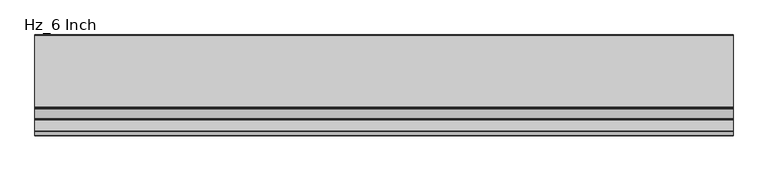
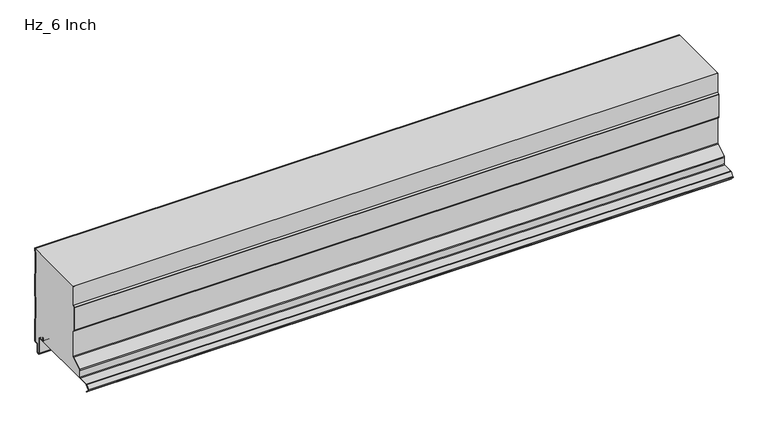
"""IFC4 building model written with IfcOpenShell, lengths in millimetres: plate geometry, KIP_R19_CP_KingSeam_Hz_Roof Panel : Hz_6 Inch."""

from ifc_helpers import new_model, si_unit, point, frame, frame_2d, origin, place, context, project, spatial, polyline, circle_curve, trimmed, segment, composite_curve, outline, extrude, source, transform, mapped, element, save


def hz_6_inch_8cb1a221(model_context):
    return source(origin(), model_context, "Body", "SweptSolid", [
        extrude(outline(composite_curve([segment(polyline([(-32.0, 1.9842002), (-32.0, 9.4842002), (-31.2, 9.4842002), (-31.2, 1.9842002)]), True, "CONTINUOUS"), segment(trimmed(circle_curve(frame_2d((-29.7, 1.9842002)), 1.5), [point((-31.2, 1.9842002))], [point((-29.7, 0.4842002))], True, "CARTESIAN"), True, "CONTINUOUS"), segment(polyline([(-29.7, 0.4842002), (-18.5, 0.4842002)]), True, "CONTINUOUS"), segment(trimmed(circle_curve(frame_2d((-18.5, -1.5157998)), 2.0), [point((-18.5, 0.4842002))], [point((-16.5, -1.5157998))], False, "CARTESIAN"), True, "CONTINUOUS"), segment(polyline([(-16.5, -1.5157998), (-16.5, -37.0157998)]), True, "CONTINUOUS"), segment(trimmed(circle_curve(frame_2d((-14.0, -37.0157998)), 2.5), [point((-16.5, -37.0157998))], [point((-14.0, -39.5157998))], True, "CARTESIAN"), True, "CONTINUOUS"), segment(polyline([(-14.0, -39.5157998), (-12.0, -39.5157998)]), True, "CONTINUOUS"), segment(trimmed(circle_curve(frame_2d((-12.0, -37.0157998)), 2.5), [point((-12.0, -39.5157998))], [point((-9.5, -37.0157998))], True, "CARTESIAN"), True, "CONTINUOUS"), segment(polyline([(-9.5, -37.0157998), (-9.5, -21.3)]), True, "CONTINUOUS"), segment(trimmed(circle_curve(frame_2d((-6.5, -21.3)), 3.0), [point((-9.5, -21.3))], [point((-6.5, -18.3))], False, "CARTESIAN"), True, "CONTINUOUS"), segment(polyline([(-6.5, -18.3), (-3.0, -18.3)]), True, "CONTINUOUS"), segment(trimmed(circle_curve(frame_2d((-2.8161925, -16.2437506)), 2.0644483), [point((-3.0, -18.3))], [point((-0.8, -15.8))], True, "CARTESIAN"), True, "CONTINUOUS"), segment(polyline([(-0.8, -15.8), (-0.8, 33.9573226)]), True, "CONTINUOUS"), segment(trimmed(circle_curve(frame_2d((-3.2, 33.9573226)), 2.4), [point((-0.8, 33.9573226))], [point((-0.9968123, 34.9091439))], True, "CARTESIAN"), True, "CONTINUOUS"), segment(polyline([(-0.9968123, 34.9091439), (-2.0293831, 37.2992431)]), True, "CONTINUOUS"), segment(trimmed(circle_curve(frame_2d((1.0, 38.6079974)), 3.3), [point((-2.0293831, 37.2992431))], [point((-2.3, 38.6079974))], False, "CARTESIAN"), True, "CONTINUOUS"), segment(polyline([(-2.3, 38.6079974), (-2.3, 86.9920026)]), True, "CONTINUOUS"), segment(trimmed(circle_curve(frame_2d((1.0, 86.9920026)), 3.3), [point((-2.3, 86.9920026))], [point((-2.0293831, 88.3007569))], False, "CARTESIAN"), True, "CONTINUOUS"), segment(polyline([(-2.0293831, 88.3007569), (-0.9968123, 90.6908561)]), True, "CONTINUOUS"), segment(trimmed(circle_curve(frame_2d((-3.2, 91.6426774)), 2.4), [point((-0.9968123, 90.6908561))], [point((-0.8, 91.6426774))], True, "CARTESIAN"), True, "CONTINUOUS"), segment(polyline([(-0.8, 91.6426774), (-0.8, 140.5573226)]), True, "CONTINUOUS"), segment(trimmed(circle_curve(frame_2d((-3.2, 140.5573226)), 2.4), [point((-0.8, 140.5573226))], [point((-0.9968123, 141.5091439))], True, "CARTESIAN"), True, "CONTINUOUS"), segment(polyline([(-0.9968123, 141.5091439), (-2.0293831, 143.8992431)]), True, "CONTINUOUS"), segment(trimmed(circle_curve(frame_2d((1.0, 145.2079974)), 3.3), [point((-2.0293831, 143.8992431))], [point((-2.3, 145.2079974))], False, "CARTESIAN"), True, "CONTINUOUS"), segment(polyline([(-2.3, 145.2079974), (-2.3, 193.5920026)]), True, "CONTINUOUS"), segment(trimmed(circle_curve(frame_2d((1.0, 193.5920026)), 3.3), [point((-2.3, 193.5920026))], [point((-2.0293831, 194.9007569))], False, "CARTESIAN"), True, "CONTINUOUS"), segment(polyline([(-2.0293831, 194.9007569), (-0.9968123, 197.2908561)]), True, "CONTINUOUS"), segment(trimmed(circle_curve(frame_2d((-3.2, 198.2426774)), 2.4), [point((-0.9968123, 197.2908561))], [point((-0.8, 198.2426774))], True, "CARTESIAN"), True, "CONTINUOUS"), segment(polyline([(-0.8, 198.2426774), (-0.8, 203.2), (0.0, 203.2), (0.0, 198.2426774)]), True, "CONTINUOUS"), segment(trimmed(circle_curve(frame_2d((-3.2, 198.2426774)), 3.2), [point((0.0, 198.2426774))], [point((-0.2624164, 196.9735823))], False, "CARTESIAN"), True, "CONTINUOUS"), segment(polyline([(-0.2624164, 196.9735823), (-1.2949872, 194.5834831)]), True, "CONTINUOUS"), segment(trimmed(circle_curve(frame_2d((1.0, 193.5920026)), 2.5), [point((-1.2949872, 194.5834831))], [point((-1.5, 193.5920026))], True, "CARTESIAN"), True, "CONTINUOUS"), segment(polyline([(-1.5, 193.5920026), (-1.5, 145.2079974)]), True, "CONTINUOUS"), segment(trimmed(circle_curve(frame_2d((1.0, 145.2079974)), 2.5), [point((-1.5, 145.2079974))], [point((-1.2949872, 144.2165169))], True, "CARTESIAN"), True, "CONTINUOUS"), segment(polyline([(-1.2949872, 144.2165169), (-0.2624164, 141.8264177)]), True, "CONTINUOUS"), segment(trimmed(circle_curve(frame_2d((-3.2, 140.5573226)), 3.2), [point((-0.2624164, 141.8264177))], [point((0.0, 140.5573226))], False, "CARTESIAN"), True, "CONTINUOUS"), segment(polyline([(0.0, 140.5573226), (0.0, 91.6426774)]), True, "CONTINUOUS"), segment(trimmed(circle_curve(frame_2d((-3.2, 91.6426774)), 3.2), [point((0.0, 91.6426774))], [point((-0.2624164, 90.3735823))], False, "CARTESIAN"), True, "CONTINUOUS"), segment(polyline([(-0.2624164, 90.3735823), (-1.2949872, 87.9834831)]), True, "CONTINUOUS"), segment(trimmed(circle_curve(frame_2d((1.0, 86.9920026)), 2.5), [point((-1.2949872, 87.9834831))], [point((-1.5, 86.9920026))], True, "CARTESIAN"), True, "CONTINUOUS"), segment(polyline([(-1.5, 86.9920026), (-1.5, 38.6079974)]), True, "CONTINUOUS"), segment(trimmed(circle_curve(frame_2d((1.0, 38.6079974)), 2.5), [point((-1.5, 38.6079974))], [point((-1.2949872, 37.6165169))], True, "CARTESIAN"), True, "CONTINUOUS"), segment(polyline([(-1.2949872, 37.6165169), (-0.2624164, 35.2264177)]), True, "CONTINUOUS"), segment(trimmed(circle_curve(frame_2d((-3.2, 33.9573226)), 3.2), [point((-0.2624164, 35.2264177))], [point((0.0, 33.9573226))], False, "CARTESIAN"), True, "CONTINUOUS"), segment(polyline([(0.0, 33.9573226), (0.0, -15.8)]), True, "CONTINUOUS"), segment(trimmed(circle_curve(frame_2d((-3.0, -15.8)), 3.0), [point((0.0, -15.8))], [point((-3.0, -18.8))], False, "CARTESIAN"), True, "CONTINUOUS"), segment(polyline([(-3.0, -18.8), (-6.5, -18.8)]), True, "CONTINUOUS"), segment(trimmed(circle_curve(frame_2d((-6.5, -21.3)), 2.5), [point((-6.5, -18.8))], [point((-9.0, -21.3))], True, "CARTESIAN"), True, "CONTINUOUS"), segment(polyline([(-9.0, -21.3), (-9.0, -37.0157998)]), True, "CONTINUOUS"), segment(trimmed(circle_curve(frame_2d((-12.0, -37.0157998)), 3.0), [point((-9.0, -37.0157998))], [point((-12.0, -40.0157998))], False, "CARTESIAN"), True, "CONTINUOUS"), segment(polyline([(-12.0, -40.0157998), (-14.0, -40.0157998)]), True, "CONTINUOUS"), segment(trimmed(circle_curve(frame_2d((-14.0, -37.0157998)), 3.0), [point((-14.0, -40.0157998))], [point((-17.0, -37.0157998))], False, "CARTESIAN"), True, "CONTINUOUS"), segment(polyline([(-17.0, -37.0157998), (-17.0, -1.5157998)]), True, "CONTINUOUS"), segment(trimmed(circle_curve(frame_2d((-18.5, -1.5157998)), 1.5), [point((-17.0, -1.5157998))], [point((-18.5, -0.0157998))], True, "CARTESIAN"), True, "CONTINUOUS"), segment(polyline([(-18.5, -0.0157998), (-30.0, -0.0157998)]), True, "CONTINUOUS"), segment(trimmed(circle_curve(frame_2d((-30.0, 1.9842002)), 2.0), [point((-30.0, -0.0157998))], [point((-32.0, 1.9842002))], False, "CARTESIAN"), True, "CONTINUOUS")], self_intersect=False)), frame((-723.9042608, 0.0, 0.0), z_axis=(1.0, 0.0, 0.0), x_axis=(0.0, 1.0, 0.0)), (0.0, 0.0, 1.0), 1447.8085217),
        extrude(outline(composite_curve([segment(polyline([(-152.6158084, 154.7942706), (-150.115881, 158.2539642), (-150.115881, 203.2), (-149.6158803, 203.2), (-149.6158803, 158.2539652), (-152.1158083, 154.7942705)]), True, "CONTINUOUS"), segment(trimmed(circle_curve(frame_2d((-150.8999997, 153.9157438)), 1.4999999), [point((-152.1158083, 154.7942705))], [point((-152.3999996, 153.9157438))], True, "CARTESIAN"), True, "CONTINUOUS"), segment(polyline([(-152.3999996, 153.9157438), (-152.3999996, 100.1657439)]), True, "CONTINUOUS"), segment(trimmed(circle_curve(frame_2d((-150.8999999, 100.1657439)), 1.4999998), [point((-152.3999996, 100.1657439))], [point((-152.1158084, 99.2872174))], True, "CARTESIAN"), True, "CONTINUOUS"), segment(polyline([(-152.1158084, 99.2872174), (-149.6158803, 95.8275223), (-149.6158803, 36.653595)]), True, "CONTINUOUS"), segment(trimmed(circle_curve(frame_2d((-152.1158801, 36.653595)), 2.4999998), [point((-149.6158803, 36.653595))], [point((-150.7365748, 34.5685253))], False, "CARTESIAN"), True, "CONTINUOUS"), segment(polyline([(-150.7365748, 34.5685253), (-173.719325, 19.3650868)]), True, "CONTINUOUS"), segment(trimmed(circle_curve(frame_2d((-172.6158806, 17.6970309)), 2.0), [point((-173.719325, 19.3650868))], [point((-174.6158806, 17.6970309))], True, "CARTESIAN"), True, "CONTINUOUS"), segment(polyline([(-174.6158806, 17.6970309), (-174.6158806, 2.1407443)]), True, "CONTINUOUS"), segment(trimmed(circle_curve(frame_2d((-176.7158807, 2.1407443)), 2.1000001), [point((-174.6158806, 2.1407443))], [point((-176.7158807, 0.0407443))], False, "CARTESIAN"), True, "CONTINUOUS"), segment(polyline([(-176.7158807, 0.0407443), (-199.6505141, 0.0407443)]), True, "CONTINUOUS"), segment(trimmed(circle_curve(frame_2d((-199.6505141, -1.4592557)), 1.5), [point((-199.6505141, 0.0407443))], [point((-200.7111742, -0.3985956))], True, "CARTESIAN"), True, "CONTINUOUS"), segment(polyline([(-200.7111742, -0.3985956), (-208.2309954, -7.9184168)]), True, "CONTINUOUS"), segment(trimmed(circle_curve(frame_2d((-207.2012712, -8.4443275)), 1.15625), [point((-208.2309954, -7.9184168))], [point((-208.0188634, -9.2619197))], True, "CARTESIAN"), True, "CONTINUOUS"), segment(polyline([(-208.0188634, -9.2619197), (-200.6649529, -16.6158302), (-201.2306383, -17.1815156), (-208.5845488, -9.8276051)]), True, "CONTINUOUS"), segment(trimmed(circle_curve(frame_2d((-207.453178, -8.6962342)), 1.6), [point((-208.5845488, -9.8276051))], [point((-208.5845488, -7.5648634))], False, "CARTESIAN"), True, "CONTINUOUS"), segment(polyline([(-208.5845488, -7.5648634), (-201.0647276, -0.0450422)]), True, "CONTINUOUS"), segment(trimmed(circle_curve(frame_2d((-199.6505141, -1.4592557)), 2.0), [point((-201.0647276, -0.0450422))], [point((-199.6505141, 0.5407443))], False, "CARTESIAN"), True, "CONTINUOUS"), segment(polyline([(-199.6505141, 0.5407443), (-176.7158807, 0.5407443)]), True, "CONTINUOUS"), segment(trimmed(circle_curve(frame_2d((-176.7158807, 2.1407444)), 1.6000001), [point((-176.7158807, 0.5407443))], [point((-175.1158806, 2.1407444))], True, "CARTESIAN"), True, "CONTINUOUS"), segment(polyline([(-175.1158806, 2.1407444), (-175.1158806, 17.6970309)]), True, "CONTINUOUS"), segment(trimmed(circle_curve(frame_2d((-172.6158806, 17.6970309)), 2.4999999), [point((-175.1158806, 17.6970309))], [point((-173.9951861, 19.7821007))], False, "CARTESIAN"), True, "CONTINUOUS"), segment(polyline([(-173.9951861, 19.7821007), (-151.012436, 34.9855395)]), True, "CONTINUOUS"), segment(trimmed(circle_curve(frame_2d((-152.1158801, 36.653595)), 1.9999995), [point((-151.012436, 34.9855395))], [point((-150.1158806, 36.653595))], True, "CARTESIAN"), True, "CONTINUOUS"), segment(polyline([(-150.1158806, 36.653595), (-150.1158806, 95.8275223), (-152.6158088, 99.2872172)]), True, "CONTINUOUS"), segment(trimmed(circle_curve(frame_2d((-151.4000001, 100.1657439)), 1.5), [point((-152.6158088, 99.2872172))], [point((-152.8999997, 100.1667153))], False, "CARTESIAN"), True, "CONTINUOUS"), segment(polyline([(-152.8999997, 100.1667153), (-152.8999997, 153.9157439)]), True, "CONTINUOUS"), segment(trimmed(circle_curve(frame_2d((-151.3999998, 153.9157439)), 1.5), [point((-152.8999997, 153.9157439))], [point((-152.6158084, 154.7942706))], False, "CARTESIAN"), True, "CONTINUOUS")], self_intersect=False)), frame((-723.9042608, 0.0, 0.0), z_axis=(1.0, 0.0, 0.0), x_axis=(0.0, 1.0, 0.0)), (0.0, 0.0, 1.0), 1447.8085217),
        extrude(outline(composite_curve([segment(polyline([(-149.6158807, 158.2132216), (-149.6158807, 203.2), (-0.7999994, 203.2), (-0.7999994, 198.2584774)]), True, "CONTINUOUS"), segment(trimmed(circle_curve(frame_2d((-3.1999994, 198.2584774)), 2.4), [point((-0.7999994, 198.2584774))], [point((-0.9968117, 197.306656))], False, "CARTESIAN"), True, "CONTINUOUS"), segment(polyline([(-0.9968117, 197.306656), (-2.0293826, 194.9165568)]), True, "CONTINUOUS"), segment(trimmed(circle_curve(frame_2d((1.0000006, 193.6078025)), 3.3), [point((-2.0293826, 194.9165568))], [point((-2.2999994, 193.6078025))], True, "CARTESIAN"), True, "CONTINUOUS"), segment(polyline([(-2.2999994, 193.6078025), (-2.2999994, 145.2237974)]), True, "CONTINUOUS"), segment(trimmed(circle_curve(frame_2d((1.0000006, 145.2237974)), 3.3), [point((-2.2999994, 145.2237974))], [point((-2.0293826, 143.915043))], True, "CARTESIAN"), True, "CONTINUOUS"), segment(polyline([(-2.0293826, 143.915043), (-0.9968117, 141.5249438)]), True, "CONTINUOUS"), segment(trimmed(circle_curve(frame_2d((-3.1999994, 140.5731225)), 2.4), [point((-0.9968117, 141.5249438))], [point((-0.7999994, 140.5731225))], False, "CARTESIAN"), True, "CONTINUOUS"), segment(polyline([(-0.7999994, 140.5731225), (-0.7999994, 91.6584774)]), True, "CONTINUOUS"), segment(trimmed(circle_curve(frame_2d((-3.1999994, 91.6584774)), 2.4), [point((-0.7999994, 91.6584774))], [point((-0.9968117, 90.706656))], False, "CARTESIAN"), True, "CONTINUOUS"), segment(polyline([(-0.9968117, 90.706656), (-2.0293826, 88.3165568)]), True, "CONTINUOUS"), segment(trimmed(circle_curve(frame_2d((1.0000006, 87.0078025)), 3.3), [point((-2.0293826, 88.3165568))], [point((-2.2999994, 87.0078025))], True, "CARTESIAN"), True, "CONTINUOUS"), segment(polyline([(-2.2999994, 87.0078025), (-2.2999994, 38.6237974)]), True, "CONTINUOUS"), segment(trimmed(circle_curve(frame_2d((1.0000006, 38.6237974)), 3.3), [point((-2.2999994, 38.6237974))], [point((-2.0293826, 37.315043))], True, "CARTESIAN"), True, "CONTINUOUS"), segment(polyline([(-2.0293826, 37.315043), (-0.9968117, 34.9249438)]), True, "CONTINUOUS"), segment(trimmed(circle_curve(frame_2d((-3.1999994, 33.9731225)), 2.4), [point((-0.9968117, 34.9249438))], [point((-0.7999994, 33.9731225))], False, "CARTESIAN"), True, "CONTINUOUS"), segment(polyline([(-0.7999994, 33.9731225), (-0.7999994, -15.7842001)]), True, "CONTINUOUS"), segment(trimmed(circle_curve(frame_2d((-2.8161919, -16.2279507)), 2.0644483), [point((-0.7999994, -15.7842001))], [point((-2.9999994, -18.2842001))], False, "CARTESIAN"), True, "CONTINUOUS"), segment(polyline([(-2.9999994, -18.2842001), (-6.4999994, -18.2842001)]), True, "CONTINUOUS"), segment(trimmed(circle_curve(frame_2d((-6.4999994, -21.2842001)), 3.0), [point((-6.4999994, -18.2842001))], [point((-9.4999994, -21.2842001))], True, "CARTESIAN"), True, "CONTINUOUS"), segment(polyline([(-9.4999994, -21.2842001), (-9.4999994, -36.9999998)]), True, "CONTINUOUS"), segment(trimmed(circle_curve(frame_2d((-11.9999994, -36.9999998)), 2.5), [point((-9.4999994, -36.9999998))], [point((-11.9999994, -39.4999998))], False, "CARTESIAN"), True, "CONTINUOUS"), segment(polyline([(-11.9999994, -39.4999998), (-13.9999994, -39.4999998)]), True, "CONTINUOUS"), segment(trimmed(circle_curve(frame_2d((-13.9999994, -36.9999998)), 2.5), [point((-13.9999994, -39.4999998))], [point((-16.4999994, -36.9999998))], False, "CARTESIAN"), True, "CONTINUOUS"), segment(polyline([(-16.4999994, -36.9999998), (-16.4999994, -1.4999998)]), True, "CONTINUOUS"), segment(trimmed(circle_curve(frame_2d((-18.4999994, -1.4999998)), 2.0), [point((-16.4999994, -1.4999998))], [point((-18.4999994, 0.5000002))], True, "CARTESIAN"), True, "CONTINUOUS"), segment(polyline([(-18.4999994, 0.5000002), (-29.6999994, 0.5000002)]), True, "CONTINUOUS"), segment(trimmed(circle_curve(frame_2d((-29.6999994, 2.0000002)), 1.5), [point((-29.6999994, 0.5000002))], [point((-31.1999994, 2.0000002))], False, "CARTESIAN"), True, "CONTINUOUS"), segment(polyline([(-31.1999994, 2.0000002), (-31.1999994, 9.5000002), (-31.9999994, 9.5000002), (-31.9999994, 2.0000002)]), True, "CONTINUOUS"), segment(trimmed(circle_curve(frame_2d((-29.9999994, 2.0000002)), 2.0), [point((-31.9999994, 2.0000002))], [point((-29.9999994, 2e-07))], True, "CARTESIAN"), True, "CONTINUOUS"), segment(polyline([(-29.9999994, 2e-07), (-176.7158809, 2e-07)]), True, "CONTINUOUS"), segment(trimmed(circle_curve(frame_2d((-176.7158809, 2.1)), 2.0999999), [point((-176.7158809, 2e-07))], [point((-174.6158811, 2.1))], True, "CARTESIAN"), True, "CONTINUOUS"), segment(polyline([(-174.6158811, 2.1), (-174.6158811, 17.6562866)]), True, "CONTINUOUS"), segment(trimmed(circle_curve(frame_2d((-172.6158811, 17.6562866)), 2.0), [point((-174.6158811, 17.6562866))], [point((-173.7193254, 19.3243425))], False, "CARTESIAN"), True, "CONTINUOUS"), segment(polyline([(-173.7193254, 19.3243425), (-150.7365754, 34.5277808)]), True, "CONTINUOUS"), segment(trimmed(circle_curve(frame_2d((-152.1158809, 36.6128508)), 2.5000002), [point((-150.7365754, 34.5277808))], [point((-149.6158807, 36.6128508))], True, "CARTESIAN"), True, "CONTINUOUS"), segment(polyline([(-149.6158807, 36.6128508), (-149.6158807, 95.7867785), (-152.115809, 99.2464732)]), True, "CONTINUOUS"), segment(trimmed(circle_curve(frame_2d((-150.9000002, 100.1250001)), 1.5000002), [point((-152.115809, 99.2464732))], [point((-152.4000003, 100.1250001))], False, "CARTESIAN"), True, "CONTINUOUS"), segment(polyline([(-152.4000003, 100.1250001), (-152.4000003, 153.875)]), True, "CONTINUOUS"), segment(trimmed(circle_curve(frame_2d((-150.9000001, 153.875)), 1.5000002), [point((-152.4000003, 153.875))], [point((-152.115809, 154.753527))], False, "CARTESIAN"), True, "CONTINUOUS"), segment(polyline([(-152.115809, 154.753527), (-149.6158807, 158.2132216)]), True, "CONTINUOUS")], self_intersect=False)), frame((-723.9042608, 0.0, 0.0), z_axis=(1.0, 0.0, 0.0), x_axis=(0.0, 1.0, 0.0)), (0.0, 0.0, 1.0), 1447.8085217),
    ])


if __name__ == "__main__":
    model = new_model("IFC4")
    model_context = context("Model", 3, world=origin())
    ifc_project = project(units=[si_unit("LENGTHUNIT", "METRE", prefix="MILLI")], contexts=[model_context])
    site = spatial("IfcSite", under=ifc_project)
    building = spatial("IfcBuilding", under=site)
    placement = place(None, origin())
    hz_6_inch_shape = hz_6_inch_8cb1a221(model_context)
    element("IfcPlate", 1, ObjectType="KIP_R19_CP_KingSeam_Hz_Roof Panel : Hz_6 Inch", at=placement, inside=building, context=model_context, shape_type="MappedRepresentation", body=[
        mapped(hz_6_inch_shape, transform((0.0, 0.0, 0.0), x_axis=(1.0, 0.0, 0.0), y_axis=(0.0, 1.0, 0.0), z_axis=(0.0, 0.0, 1.0))),
    ])
    save(model, "model.ifc")
